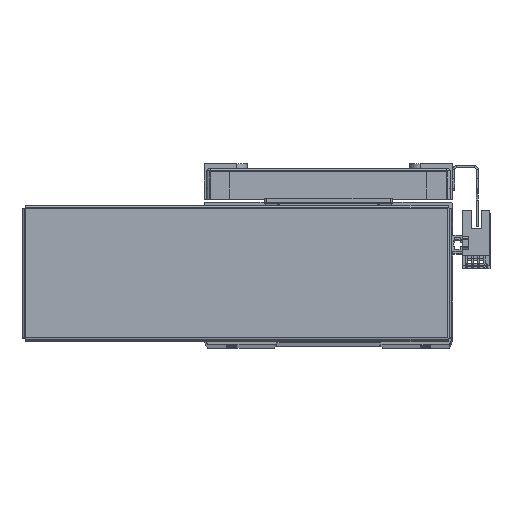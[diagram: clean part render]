
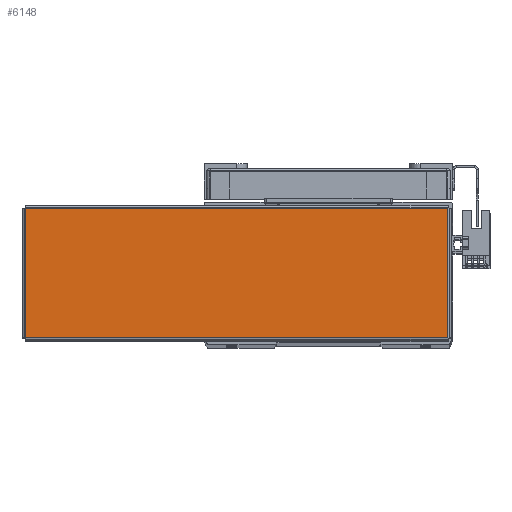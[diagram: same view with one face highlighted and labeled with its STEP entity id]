
A CAD part, top view. The second image highlights one B-rep face of the part: STEP entity #6148.
In plain terms, the highlighted planar face has unit normal (0, 0, 1) as drawn and (0, -1, 0) by its records, which use the part's own axes.
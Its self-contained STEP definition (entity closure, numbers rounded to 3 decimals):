
#1603 = DIRECTION ( 'NONE',  ( 1., 0., 0. ) ) ;
#1628 = CARTESIAN_POINT ( 'NONE',  ( -103.793, -1., -31.763 ) ) ;
#1759 = CARTESIAN_POINT ( 'NONE',  ( 103.763, -1., -31.793 ) ) ;
#1762 = DIRECTION ( 'NONE',  ( 0., 0., 1. ) ) ;
#1800 = CARTESIAN_POINT ( 'NONE',  ( -103.763, -1., 31.793 ) ) ;
#1810 = CARTESIAN_POINT ( 'NONE',  ( 103.793, -1., 31.763 ) ) ;
#1821 = DIRECTION ( 'NONE',  ( -1., 0., 0. ) ) ;
#1834 = DIRECTION ( 'NONE',  ( 0., 0., -1. ) ) ;
#2559 = PLANE ( 'NONE',  #19424 ) ;
#2567 = DIRECTION ( 'NONE',  ( 0., 0., 1. ) ) ;
#2590 = CARTESIAN_POINT ( 'NONE',  ( 0., -1., 0. ) ) ;
#2591 = DIRECTION ( 'NONE',  ( 0., 1., 0. ) ) ;
#4951 = CARTESIAN_POINT ( 'NONE',  ( 103.763, -1., -31.763 ) ) ;
#6148 = ADVANCED_FACE ( 'NONE', ( #26636 ), #2559, .F. ) ;
#7612 = LINE ( 'NONE', #1628, #7653 ) ;
#7653 = VECTOR ( 'NONE', #1603, 1000. ) ;
#7715 = VECTOR ( 'NONE', #1762, 1000. ) ;
#7718 = LINE ( 'NONE', #1759, #7715 ) ;
#7761 = VECTOR ( 'NONE', #1821, 1000. ) ;
#7762 = LINE ( 'NONE', #1810, #7761 ) ;
#7785 = LINE ( 'NONE', #1800, #7794 ) ;
#7794 = VECTOR ( 'NONE', #1834, 1000. ) ;
#9104 = CARTESIAN_POINT ( 'NONE',  ( -103.763, -1., 31.763 ) ) ;
#9113 = CARTESIAN_POINT ( 'NONE',  ( -103.763, -1., -31.763 ) ) ;
#9142 = CARTESIAN_POINT ( 'NONE',  ( 103.763, -1., 31.763 ) ) ;
#19424 = AXIS2_PLACEMENT_3D ( 'NONE', #2590, #2591, #2567 ) ;
#26636 = FACE_OUTER_BOUND ( 'NONE', #34138, .T. ) ;
#29141 = ORIENTED_EDGE ( 'NONE', *, *, #49598, .T. ) ;
#29158 = VERTEX_POINT ( 'NONE', #4951 ) ;
#29163 = ORIENTED_EDGE ( 'NONE', *, *, #49540, .T. ) ;
#29168 = ORIENTED_EDGE ( 'NONE', *, *, #49597, .T. ) ;
#29194 = ORIENTED_EDGE ( 'NONE', *, *, #49593, .T. ) ;
#34138 = EDGE_LOOP ( 'NONE', ( #29141, #29168, #29163, #29194 ) ) ;
#40823 = VERTEX_POINT ( 'NONE', #9113 ) ;
#40842 = VERTEX_POINT ( 'NONE', #9142 ) ;
#40863 = VERTEX_POINT ( 'NONE', #9104 ) ;
#49540 = EDGE_CURVE ( 'NONE', #40823, #29158, #7612, .T. ) ;
#49593 = EDGE_CURVE ( 'NONE', #29158, #40842, #7718, .T. ) ;
#49597 = EDGE_CURVE ( 'NONE', #40863, #40823, #7785, .T. ) ;
#49598 = EDGE_CURVE ( 'NONE', #40842, #40863, #7762, .T. ) ;
